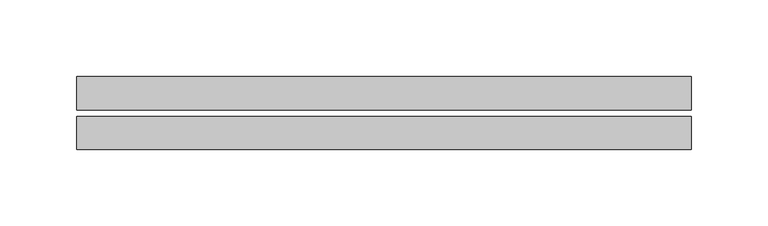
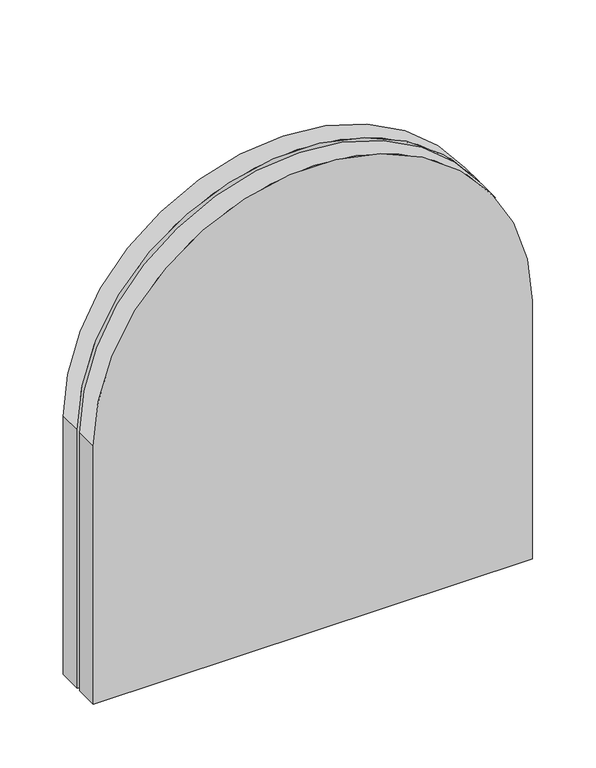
"""IFC4 building model written with IfcOpenShell, lengths in millimetres: flow terminal geometry, Deca_Shared_Assento_P.280 : Bacia Sanitária - Assento."""

from ifc_helpers import new_model, si_unit, point, frame, frame_2d, origin, place, context, project, spatial, polyline, circle_curve, trimmed, segment, composite_curve, outline, extrude, source, transform, mapped, element, save


def flow_terminal_fb00f1ee(model_context):
    return source(origin(), model_context, "Body", "SweptSolid", [
        extrude(outline(composite_curve([segment(trimmed(circle_curve(frame_2d((248.4375, 5.7583035)), 200.0004357), [point((248.4375, 205.7587392))], [point((248.4375, -194.2421321))], False, "CARTESIAN"), True, "CONTINUOUS"), segment(polyline([(248.4375, -194.2421321), (0.0, -194.2421321), (0.0, 205.7587392), (248.4375, 205.7587392)]), True, "CONTINUOUS")], self_intersect=False)), frame((0.0, 31.5348445, 0.0), z_axis=(0.0, 1.0, 0.0), x_axis=(0.0, 0.0, 1.0)), (0.0, 0.0, 1.0), 21.8401554),
        extrude(outline(composite_curve([segment(trimmed(circle_curve(frame_2d((248.4375, 5.7583035)), 200.0004357), [point((248.4375, 205.7587392))], [point((248.4375, -194.2421321))], False, "CARTESIAN"), True, "CONTINUOUS"), segment(polyline([(248.4375, -194.2421321), (0.0, -194.2421321), (0.0, 205.7587392), (248.4375, 205.7587392)]), True, "CONTINUOUS")], self_intersect=False)), frame((0.0, 6.0, 0.0), z_axis=(0.0, 1.0, 0.0), x_axis=(0.0, 0.0, 1.0)), (0.0, 0.0, 1.0), 21.2485917),
    ])


if __name__ == "__main__":
    model = new_model("IFC4")
    model_context = context("Model", 3, world=origin())
    ifc_project = project(units=[si_unit("LENGTHUNIT", "METRE", prefix="MILLI")], contexts=[model_context])
    site = spatial("IfcSite", under=ifc_project)
    building = spatial("IfcBuilding", under=site)
    placement = place(None, origin())
    flow_terminal_shape = flow_terminal_fb00f1ee(model_context)
    element("IfcFlowTerminal", 1, ObjectType="Deca_Shared_Assento_P.280 : Bacia Sanitária - Assento", at=placement, inside=building, context=model_context, shape_type="MappedRepresentation", body=[
        mapped(flow_terminal_shape, transform((0.0, 0.0, 0.0), x_axis=(1.0, 0.0, 0.0), y_axis=(0.0, 1.0, 0.0), z_axis=(0.0, 0.0, 1.0))),
    ])
    save(model, "model.ifc")
